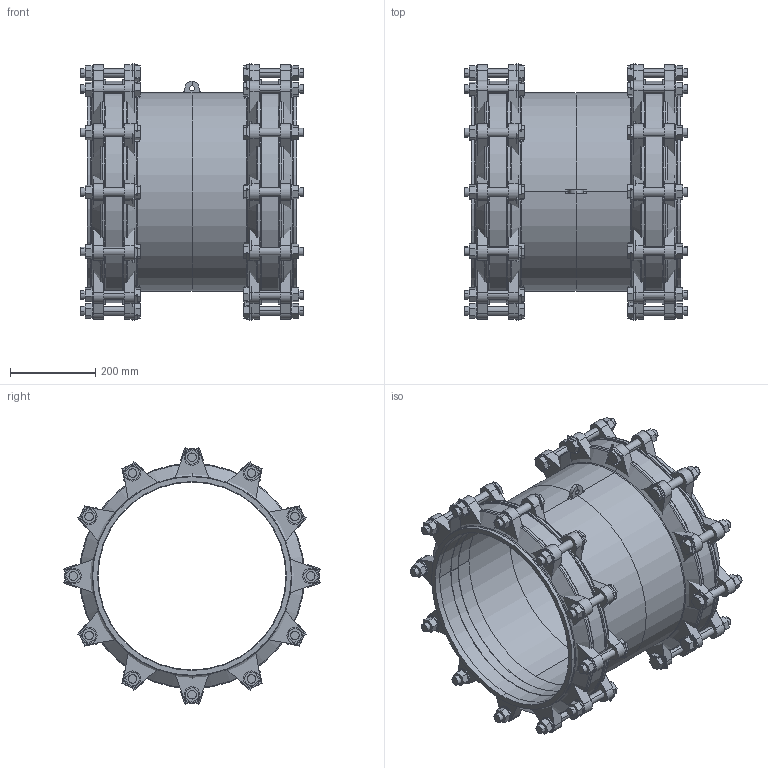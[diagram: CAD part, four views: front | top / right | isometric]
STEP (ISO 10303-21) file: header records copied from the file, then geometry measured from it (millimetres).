
FILE_DESCRIPTION(('STEP AP214'),'1');
FILE_NAME('MJ000076 DN 400.STP','2015-02-06T12:41:27',(' '),(' '),'Spatial InterOp 3D',' ',' ');
FILE_SCHEMA(('automotive_design'));
Length unit declared in the file: millimetre
Products named in the file (108): 3D-Objekt
Bounding box: 523 x 599.72 x 599.72 mm (x, y, z)
Volume: 17226692.6 mm3; surface area: 3620654.2 mm2
Topology: 108 solids, 108 shells, 1400 faces, 3260 edges, 2172 vertices
Faces by surface type: plane 1040, cylinder 320, torus 24, cone 16
Entity records: 53458 total; most frequent: DIRECTION 7016, CARTESIAN_POINT 6940, ORIENTED_EDGE 6520, EDGE_CURVE 3260, LINE 2520, VECTOR 2520, AXIS2_PLACEMENT_3D 2248, VERTEX_POINT 2172
